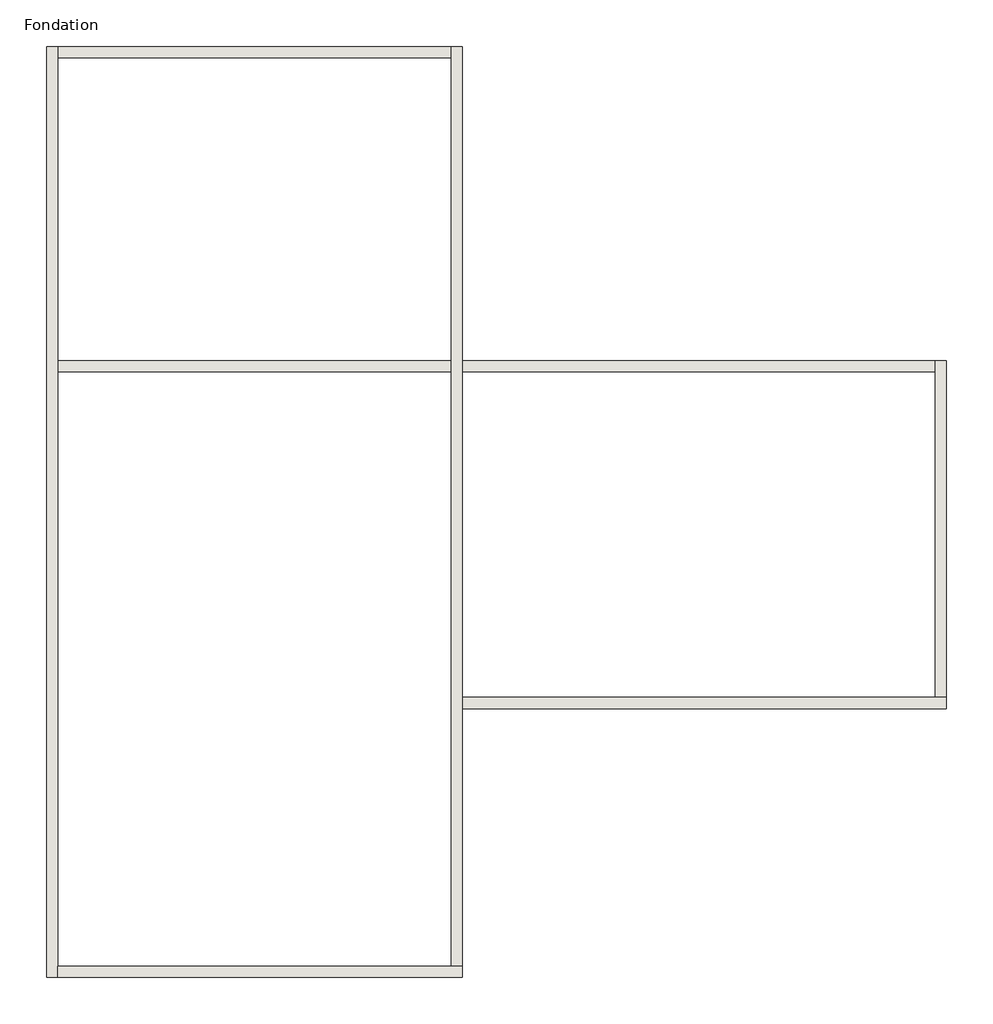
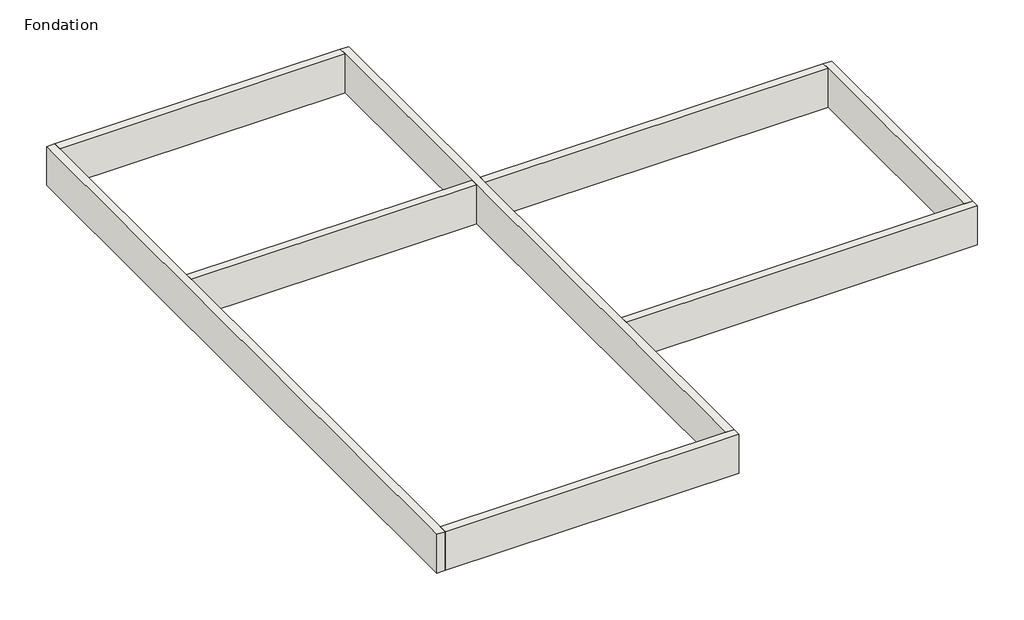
# One storey: 7 walls.
"""IFC4 building model written with IfcOpenShell, lengths in millimetres."""

from ifc_helpers import new_model, si_unit, frame, origin, place, context, project, spatial, polyline, outline, extrude, faceted_brep, element, save

model = new_model("IFC4")

# Units and contexts
model_context = context("Model", 3, world=origin())
ifc_project = project(units=[si_unit("LENGTHUNIT", "METRE", prefix="MILLI")], contexts=[model_context])

# Site, building, storey
site = spatial("IfcSite", under=ifc_project)
building = spatial("IfcBuilding", under=site)
storey = spatial("IfcBuildingStorey", under=building, Name="Fondation", Elevation=-1000.0)

# Walls
placement = place(None, origin())
element("IfcWall", 1, ObjectType="Fondation Béton", at=placement, inside=storey, context=model_context, shape_type="Brep", body=[
    faceted_brep([(-7836.697342, 7834.9574199, -1000.0), (-7836.697342, -8615.0425801, -1000.0), (-7836.697342, -8615.0425801, 0.0), (-7836.697342, 7834.9574199, 0.0), (-7636.697342, 7834.9574199, -1000.0), (-7636.697342, 7834.9574199, 0.0), (-7636.697342, 7634.9574199, 0.0), (-7636.697342, 2284.9574199, 0.0), (-7636.697342, 2084.9574199, 0.0), (-7636.697342, -8415.0425801, 0.0), (-7636.697342, -8615.0425801, 0.0), (-7636.697342, -8615.0425801, -1000.0), (-7636.697342, -8415.0425801, -1000.0), (-7636.697342, 2084.9574199, -1000.0), (-7636.697342, 2284.9574199, -1000.0), (-7636.697342, 7634.9574199, -1000.0)], [[[0, 1, 2, 3]], [[4, 5, 6, 7, 8, 9, 10, 11, 12, 13, 14, 15]], [[1, 0, 4, 15, 14, 13, 12, 11]], [[3, 2, 10, 9, 8, 7, 6, 5]], [[0, 3, 5, 4]], [[2, 1, 11, 10]]]),
])
element("IfcWall", 2, ObjectType="Fondation Béton", at=placement, inside=storey, context=model_context, shape_type="Brep", body=[
    faceted_brep([(-7636.697342, -8615.0425801, -1000.0), (-486.697342, -8615.0425801, -1000.0), (-486.697342, -8615.0425801, 0.0), (-7636.697342, -8615.0425801, 0.0), (-7636.697342, -8415.0425801, -1000.0), (-7636.697342, -8415.0425801, 0.0), (-686.697342, -8415.0425801, 0.0), (-486.697342, -8415.0425801, 0.0), (-486.697342, -8415.0425801, -1000.0), (-686.697342, -8415.0425801, -1000.0)], [[[0, 1, 2, 3]], [[4, 5, 6, 7, 8, 9]], [[1, 0, 4, 9, 8]], [[3, 2, 7, 6, 5]], [[2, 1, 8, 7]], [[0, 3, 5, 4]]]),
])
element("IfcWall", 3, ObjectType="Fondation Béton", at=placement, inside=storey, context=model_context, shape_type="Brep", body=[
    faceted_brep([(-486.697342, -8415.0425801, -1000.0), (-486.697342, -3865.0425801, -1000.0), (-486.697342, -3665.0425801, -1000.0), (-486.697342, 2084.9574199, -1000.0), (-486.697342, 2284.9574199, -1000.0), (-486.697342, 7834.9574199, -1000.0), (-486.697342, 7834.9574199, 0.0), (-486.697342, 2284.9574199, 0.0), (-486.697342, 2084.9574199, 0.0), (-486.697342, -3665.0425801, 0.0), (-486.697342, -3865.0425801, 0.0), (-486.697342, -8415.0425801, 0.0), (-686.697342, -8415.0425801, -1000.0), (-686.697342, -8415.0425801, 0.0), (-686.697342, 2084.9574199, 0.0), (-686.697342, 2284.9574199, 0.0), (-686.697342, 7634.9574199, 0.0), (-686.697342, 7834.9574199, 0.0), (-686.697342, 7834.9574199, -1000.0), (-686.697342, 7634.9574199, -1000.0), (-686.697342, 2284.9574199, -1000.0), (-686.697342, 2084.9574199, -1000.0)], [[[0, 1, 2, 3, 4, 5, 6, 7, 8, 9, 10, 11]], [[12, 13, 14, 15, 16, 17, 18, 19, 20, 21]], [[5, 4, 3, 2, 1, 0, 12, 21, 20, 19, 18]], [[11, 10, 9, 8, 7, 6, 17, 16, 15, 14, 13]], [[0, 11, 13, 12]], [[6, 5, 18, 17]]]),
])
element("IfcWall", 4, ObjectType="Fondation Béton", at=placement, inside=storey, context=model_context, shape_type="Brep", body=[
    faceted_brep([(-486.697342, -3865.0425801, -1000.0), (8063.302658, -3865.0425801, -1000.0), (8063.302658, -3865.0425801, 0.0), (-486.697342, -3865.0425801, 0.0), (-486.697342, -3665.0425801, -1000.0), (-486.697342, -3665.0425801, 0.0), (7863.302658, -3665.0425801, 0.0), (8063.302658, -3665.0425801, 0.0), (8063.302658, -3665.0425801, -1000.0), (7863.302658, -3665.0425801, -1000.0)], [[[0, 1, 2, 3]], [[4, 5, 6, 7, 8, 9]], [[1, 0, 4, 9, 8]], [[3, 2, 7, 6, 5]], [[2, 1, 8, 7]], [[0, 3, 5, 4]]]),
])
element("IfcWall", 5, ObjectType="Fondation Béton", at=placement, inside=storey, context=model_context, shape_type="Brep", body=[
    faceted_brep([(8063.302658, -3665.0425801, -1000.0), (8063.302658, 2284.9574199, -1000.0), (8063.302658, 2284.9574199, 0.0), (8063.302658, -3665.0425801, 0.0), (7863.302658, -3665.0425801, -1000.0), (7863.302658, -3665.0425801, 0.0), (7863.302658, 2084.9574199, 0.0), (7863.302658, 2284.9574199, 0.0), (7863.302658, 2284.9574199, -1000.0), (7863.302658, 2084.9574199, -1000.0)], [[[0, 1, 2, 3]], [[4, 5, 6, 7, 8, 9]], [[1, 0, 4, 9, 8]], [[3, 2, 7, 6, 5]], [[0, 3, 5, 4]], [[2, 1, 8, 7]]]),
])
element("IfcWall", 6, ObjectType="Fondation Béton", at=placement, inside=storey, context=model_context, shape_type="SweptSolid", body=[
    extrude(outline(polyline([(-7636.697342, 2084.9574199), (-7636.697342, 2284.9574199), (-686.697342, 2284.9574199), (-686.697342, 2084.9574199), (-7636.697342, 2084.9574199)])), frame((0.0, 0.0, -1000.0), z_axis=(0.0, 0.0, 1.0), x_axis=(1.0, 0.0, 0.0)), (0.0, 0.0, 1.0), 1000.0),
    extrude(outline(polyline([(7863.302658, 2284.9574199), (7863.302658, 2084.9574199), (-486.697342, 2084.9574199), (-486.697342, 2284.9574199), (7863.302658, 2284.9574199)])), frame((0.0, 0.0, -1000.0), z_axis=(0.0, 0.0, 1.0), x_axis=(1.0, 0.0, 0.0)), (0.0, 0.0, 1.0), 1000.0),
])
element("IfcWall", 7, ObjectType="Fondation Béton", at=placement, inside=storey, context=model_context, shape_type="SweptSolid", body=[
    extrude(outline(polyline([(-686.697342, 7634.9574199), (-7636.697342, 7634.9574199), (-7636.697342, 7834.9574199), (-686.697342, 7834.9574199), (-686.697342, 7634.9574199)])), frame((0.0, 0.0, -1000.0), z_axis=(0.0, 0.0, 1.0), x_axis=(1.0, 0.0, 0.0)), (0.0, 0.0, 1.0), 1000.0),
])

save(model, "model.ifc")
